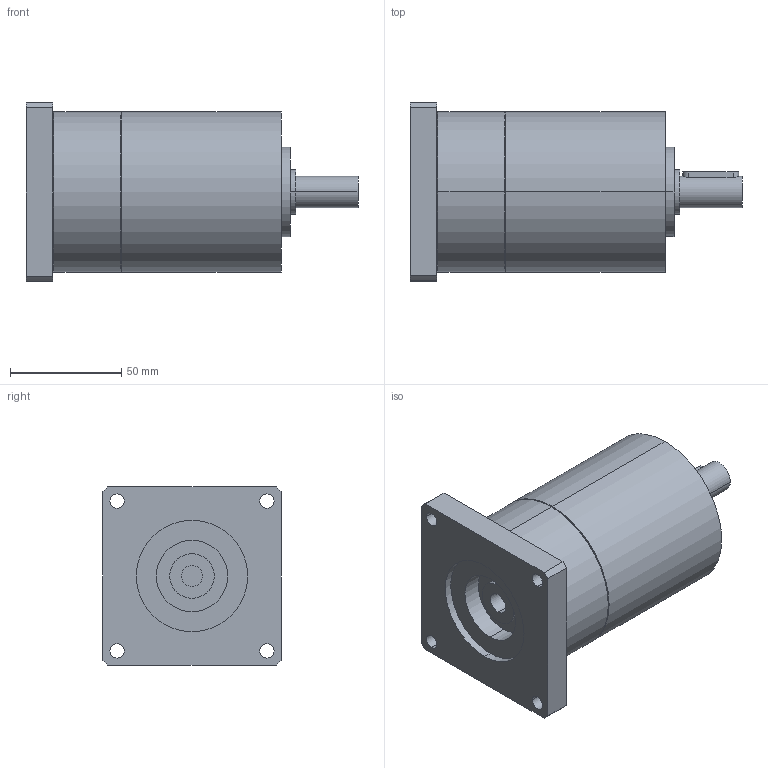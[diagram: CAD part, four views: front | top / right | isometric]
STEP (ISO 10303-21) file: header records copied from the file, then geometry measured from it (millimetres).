
FILE_DESCRIPTION(('CoCreate Modeling STEP Export'),'2;1');
FILE_NAME('GPT75_ig-9-12-16-20-25-28-35-40-50-70-100_14_B14T_9.52_P27.stp','2014-08-27T13:26:47',(''),(''),'CoCreate Modeling STEP processor for AP214 (Solid Model)','CoCreate Modeling 16.00C 25-Feb-2009 (C) Parametric Technology GmbH','');
FILE_SCHEMA(('AUTOMOTIVE_DESIGN { 1 0 10303 214 1 1 1 1 }'));
Length unit declared in the file: millimetre
Products named in the file (2): GPT75_ig-9-12-16-20-25-28-35-40-50-70-100_14_B14T_9.52_P27
Assembly tree (1 placements, depth 2):
  GPT75_ig-9-12-16-20-25-28-35-40-50-70-100_14_B14T_9.52_P27
    GPT75_ig-9-12-16-20-25-28-35-40-50-70-100_14_B14T_9.52_P27
Bounding box: 149 x 80 x 80 mm (x, y, z)
Volume: 486832.2 mm3; surface area: 46192.8 mm2
Topology: 1 solids, 1 shells, 69 faces, 163 edges, 110 vertices
Faces by surface type: cylinder 42, plane 23, cone 4
Entity records: 2146 total; most frequent: CARTESIAN_POINT 661, ORIENTED_EDGE 326, DIRECTION 262, EDGE_CURVE 163, VERTEX_POINT 110, AXIS2_PLACEMENT_3D 99, EDGE_LOOP 91, FACE_OUTER_BOUND 69
